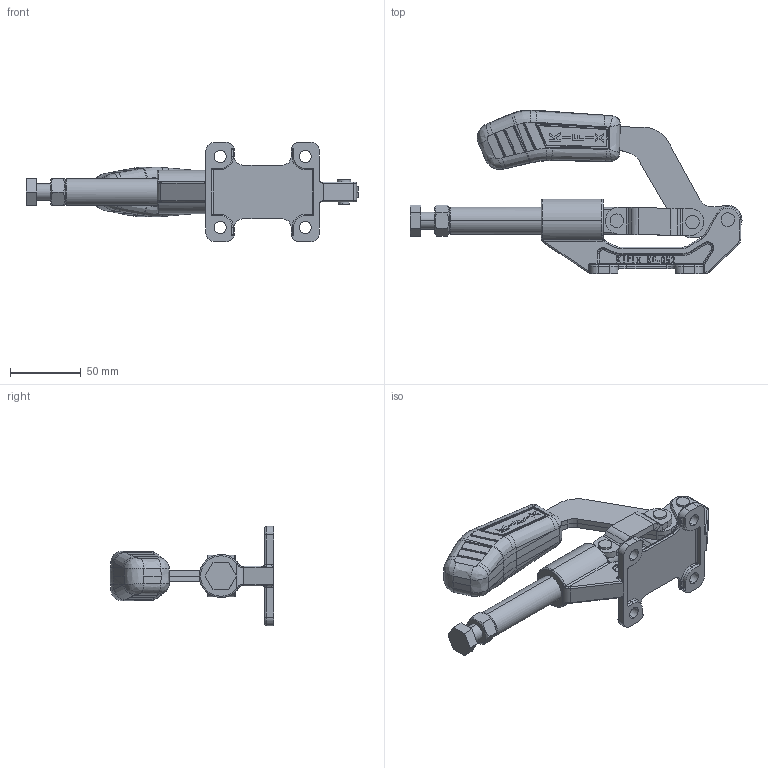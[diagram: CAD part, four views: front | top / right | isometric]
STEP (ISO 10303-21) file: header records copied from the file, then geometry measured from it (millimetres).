
FILE_DESCRIPTION (( 'STEP AP203' ), '1' );
FILE_NAME ('KF-052.STEP', '2018-10-23T18:30:04', ( 'Ricardo' ), ( '' ), 'SwSTEP 2.0', 'SolidWorks 2018', '' );
FILE_SCHEMA (( 'CONFIG_CONTROL_DESIGN' ));
Length unit declared in the file: millimetre
Products named in the file (12): 06.50026; 07.60002; 11.50004; 02.30033; 12.50022; 01.10035; PP-M12; 03.20039; KF-052; 08.10043
Assembly tree (13 placements, depth 3):
  KF-052
    02.30033
    01.10035  x2
    03.20039
    08.10043  x2
    06.50026
    06.50026
    06.50026
    07.60002
    PP-M12
      11.50004
      12.50022
Bounding box: 234.07 x 115.55 x 70 mm (x, y, z)
Volume: 230536.7 mm3; surface area: 83602.5 mm2
Topology: 12 solids, 12 shells, 1199 faces, 3130 edges, 1956 vertices
Faces by surface type: plane 415, bspline 383, cylinder 249, torus 68, sphere 66, cone 18
Entity records: 48146 total; most frequent: CARTESIAN_POINT 21897, ORIENTED_EDGE 5898, DIRECTION 4121, EDGE_CURVE 2949, VERTEX_POINT 1862, AXIS2_PLACEMENT_3D 1437, LINE 1247, VECTOR 1247
